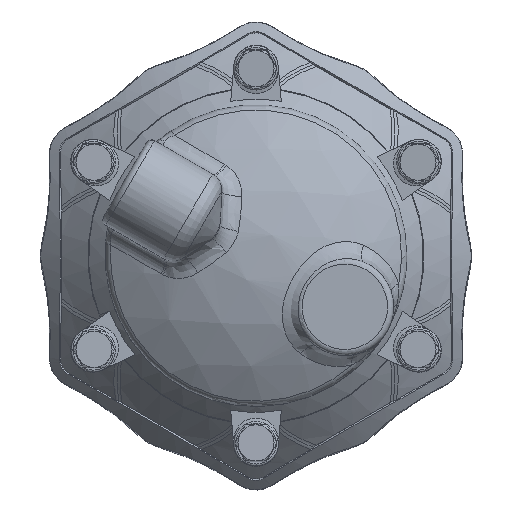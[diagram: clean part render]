
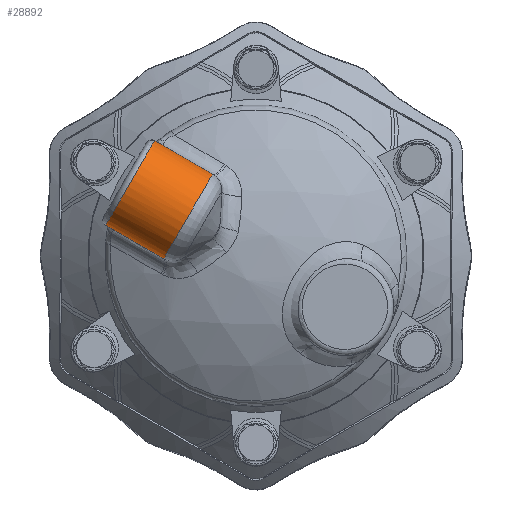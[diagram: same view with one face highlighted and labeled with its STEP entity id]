
A CAD part, top view. The second image highlights one B-rep face of the part: STEP entity #28892.
In plain terms, the highlighted cylindrical face has radius 40.5 mm (diameter 81 mm), a partial arc.
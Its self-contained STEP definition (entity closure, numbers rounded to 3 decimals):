
#1389 = CARTESIAN_POINT ( 'NONE',  ( -124.321, 25.797, 33.075 ) ) ;
#1390 = CARTESIAN_POINT ( 'NONE',  ( -124.48, 26.053, 32.379 ) ) ;
#1400 = CARTESIAN_POINT ( 'NONE',  ( -124.152, 25.556, 33.772 ) ) ;
#1401 = CARTESIAN_POINT ( 'NONE',  ( -123.783, 25.101, 35.166 ) ) ;
#1402 = CARTESIAN_POINT ( 'NONE',  ( -123.583, 24.886, 35.861 ) ) ;
#1403 = CARTESIAN_POINT ( 'NONE',  ( -123.13, 24.469, 37.238 ) ) ;
#1404 = CARTESIAN_POINT ( 'NONE',  ( -122.878, 24.267, 37.92 ) ) ;
#1405 = CARTESIAN_POINT ( 'NONE',  ( -122.429, 23.953, 38.916 ) ) ;
#1406 = CARTESIAN_POINT ( 'NONE',  ( -122.268, 23.847, 39.244 ) ) ;
#1407 = CARTESIAN_POINT ( 'NONE',  ( -122.003, 23.681, 39.725 ) ) ;
#1408 = CARTESIAN_POINT ( 'NONE',  ( -121.912, 23.625, 39.884 ) ) ;
#1409 = CARTESIAN_POINT ( 'NONE',  ( -121.721, 23.511, 40.196 ) ) ;
#1410 = CARTESIAN_POINT ( 'NONE',  ( -121.621, 23.452, 40.351 ) ) ;
#1411 = CARTESIAN_POINT ( 'NONE',  ( -121.52, 23.394, 40.5 ) ) ;
#1522 = CARTESIAN_POINT ( 'NONE',  ( -28.1, 62.989, 40.5 ) ) ;
#1523 = DIRECTION ( 'NONE',  ( -0.866, 0.5, 0. ) ) ;
#1568 = CARTESIAN_POINT ( 'NONE',  ( -104.641, 60.415, 40.5 ) ) ;
#1569 = DIRECTION ( 'NONE',  ( 0.866, -0.5, 0. ) ) ;
#1570 = DIRECTION ( 'NONE',  ( -0.5, -0.866, 0. ) ) ;
#1676 = CARTESIAN_POINT ( 'NONE',  ( -56.35, 32.534, 40.5 ) ) ;
#1677 = DIRECTION ( 'NONE',  ( -0.866, 0.5, 0. ) ) ;
#1678 = DIRECTION ( 'NONE',  ( -0.5, -0.866, 0. ) ) ;
#1781 = CARTESIAN_POINT ( 'NONE',  ( -81.02, 93.542, 40.5 ) ) ;
#1801 = CARTESIAN_POINT ( 'NONE',  ( -81.224, 93.66, 40.198 ) ) ;
#1814 = CARTESIAN_POINT ( 'NONE',  ( -81.419, 93.769, 39.886 ) ) ;
#1815 = CARTESIAN_POINT ( 'NONE',  ( -81.786, 93.964, 39.243 ) ) ;
#1816 = CARTESIAN_POINT ( 'NONE',  ( -81.959, 94.05, 38.916 ) ) ;
#1817 = CARTESIAN_POINT ( 'NONE',  ( -82.455, 94.282, 37.92 ) ) ;
#1818 = CARTESIAN_POINT ( 'NONE',  ( -82.756, 94.4, 37.238 ) ) ;
#1819 = CARTESIAN_POINT ( 'NONE',  ( -83.344, 94.583, 35.861 ) ) ;
#1820 = CARTESIAN_POINT ( 'NONE',  ( -83.63, 94.649, 35.165 ) ) ;
#1821 = CARTESIAN_POINT ( 'NONE',  ( -84.208, 94.741, 33.772 ) ) ;
#1822 = CARTESIAN_POINT ( 'NONE',  ( -84.501, 94.767, 33.075 ) ) ;
#1823 = CARTESIAN_POINT ( 'NONE',  ( -84.803, 94.776, 32.379 ) ) ;
#8129 = VERTEX_POINT ( 'NONE', #10136 ) ;
#8141 = VERTEX_POINT ( 'NONE', #10148 ) ;
#8146 = VERTEX_POINT ( 'NONE', #10153 ) ;
#8152 = VERTEX_POINT ( 'NONE', #10159 ) ;
#8191 = VERTEX_POINT ( 'NONE', #10198 ) ;
#8243 = VERTEX_POINT ( 'NONE', #10250 ) ;
#8342 = ORIENTED_EDGE ( 'NONE', *, *, #11851, .T. ) ;
#8343 = ORIENTED_EDGE ( 'NONE', *, *, #11813, .T. ) ;
#8344 = ORIENTED_EDGE ( 'NONE', *, *, #11777, .T. ) ;
#8345 = ORIENTED_EDGE ( 'NONE', *, *, #11731, .T. ) ;
#8346 = ORIENTED_EDGE ( 'NONE', *, *, #11827, .T. ) ;
#9329 = B_SPLINE_CURVE_WITH_KNOTS ( 'NONE', 3,
 ( #1390, #1389, #1400, #1401, #1402, #1403, #1404, #1405, #1406, #1407, #1408, #1409, #1410, #1411 ),
 .UNSPECIFIED., .F., .F.,
 ( 4, 2, 2, 2, 2, 2, 4 ),
 ( 0., 0.002, 0.005, 0.007, 0.008, 0.008, 0.009 ),
 .UNSPECIFIED. ) ;
#9408 = B_SPLINE_CURVE_WITH_KNOTS ( 'NONE', 3,
 ( #1781, #1801, #1814, #1815, #1816, #1817, #1818, #1819, #1820, #1821, #1822, #1823 ),
 .UNSPECIFIED., .F., .F.,
 ( 4, 2, 2, 2, 2, 4 ),
 ( 0., 0.001, 0.002, 0.005, 0.007, 0.009 ),
 .UNSPECIFIED. ) ;
#10136 = CARTESIAN_POINT ( 'NONE',  ( -76.6, -2.54, 40.5 ) ) ;
#10148 = CARTESIAN_POINT ( 'NONE',  ( -81.02, 93.542, 40.5 ) ) ;
#10153 = CARTESIAN_POINT ( 'NONE',  ( -124.48, 26.053, 32.379 ) ) ;
#10159 = CARTESIAN_POINT ( 'NONE',  ( -84.803, 94.776, 32.379 ) ) ;
#10198 = CARTESIAN_POINT ( 'NONE',  ( -36.1, 67.608, 40.5 ) ) ;
#10250 = CARTESIAN_POINT ( 'NONE',  ( -121.52, 23.394, 40.5 ) ) ;
#11731 = EDGE_CURVE ( 'NONE', #8243, #8129, #14088, .T. ) ;
#11777 = EDGE_CURVE ( 'NONE', #8146, #8243, #9329, .T. ) ;
#11800 = EDGE_CURVE ( 'NONE', #8191, #8141, #14104, .T. ) ;
#11813 = EDGE_CURVE ( 'NONE', #8152, #8146, #14116, .T. ) ;
#11827 = EDGE_CURVE ( 'NONE', #8129, #8191, #14117, .T. ) ;
#11851 = EDGE_CURVE ( 'NONE', #8141, #8152, #9408, .T. ) ;
#14088 = LINE ( 'NONE', #22683, #14089 ) ;
#14089 = VECTOR ( 'NONE', #22690, 1000. ) ;
#14104 = LINE ( 'NONE', #1522, #14109 ) ;
#14109 = VECTOR ( 'NONE', #1523, 1000. ) ;
#14116 = CIRCLE ( 'NONE', #14952, 40.5 ) ;
#14117 = CIRCLE ( 'NONE', #14955, 40.5 ) ;
#14952 = AXIS2_PLACEMENT_3D ( 'NONE', #1568, #1569, #1570 ) ;
#14955 = AXIS2_PLACEMENT_3D ( 'NONE', #1676, #1677, #1678 ) ;
#19052 = AXIS2_PLACEMENT_3D ( 'NONE', #24900, #24898, #24893 ) ;
#22564 = ORIENTED_EDGE ( 'NONE', *, *, #11800, .T. ) ;
#22683 = CARTESIAN_POINT ( 'NONE',  ( -123.423, 24.493, 40.5 ) ) ;
#22690 = DIRECTION ( 'NONE',  ( 0.866, -0.5, 0. ) ) ;
#24893 = DIRECTION ( 'NONE',  ( 0.5, 0.866, 0. ) ) ;
#24898 = DIRECTION ( 'NONE',  ( 0.866, -0.5, 0. ) ) ;
#24900 = CARTESIAN_POINT ( 'NONE',  ( 0., 0., 40.5 ) ) ;
#25293 = EDGE_LOOP ( 'NONE', ( #22564, #8342, #8343, #8344, #8345, #8346 ) ) ;
#25626 = FACE_OUTER_BOUND ( 'NONE', #25293, .T. ) ;
#25628 = CYLINDRICAL_SURFACE ( 'NONE', #19052, 40.5 ) ;
#28892 = ADVANCED_FACE ( 'NONE', ( #25626 ), #25628, .T. ) ;
